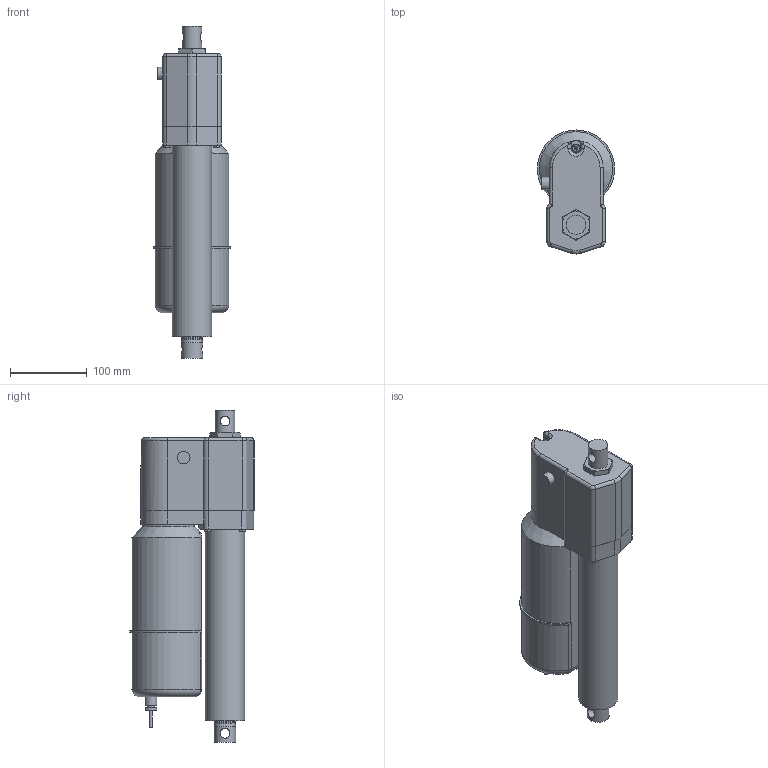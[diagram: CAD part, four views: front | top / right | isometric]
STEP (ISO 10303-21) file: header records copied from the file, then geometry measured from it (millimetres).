
FILE_DESCRIPTION (( 'STEP AP214' ), '1' );
FILE_NAME ('A42-05B5-06M0NPO-tollo.step', '2020-04-06T19:02:40', ( '' ), ( '' ), 'SwSTEP 2.0', 'SolidWorks 2010', '' );
FILE_SCHEMA (( 'AUTOMOTIVE_DESIGN' ));
Length unit declared in the file: millimetre
Products named in the file (7): Electrak-LA5-Motor-A42-05B5-06M0NPO-tollo_Electrak-LA5-Motor-A42-05B5-06M0NPO-tollo; Electrak-LA5-Rear-A42-05B5-06M0NPO-tollo_Electrak-LA5-Rear-A42-05B5-06M0NPO-tollo; Electrak-LA5-Tube-A42-05B5-06M0NPO-tollo_Electrak-LA5-Tube-A42-05B5-06M0NPO-tollo; Electrak-LA5-Rod-A42-05B5-06M0NPO-tollo_Electrak-LA5-Rod-A42-05B5-06M0NPO-tollo; Screw-MFX-H-M5-A42-05B5-06M0NPO-tollo_Screw-MFX-H-M5-A42-05B5-06M0NPO-tollo; Screw-M6S-M5-A42-05B5-06M0NPO-tollo_Screw-M6S-M5-A42-05B5-06M0NPO-tollo; A42-05B5-06M0NPO-tollo
Assembly tree (9 placements, depth 2):
  A42-05B5-06M0NPO-tollo
    Screw-M6S-M5-A42-05B5-06M0NPO-tollo_Screw-M6S-M5-A42-05B5-06M0NPO-tollo  x4
    Screw-MFX-H-M5-A42-05B5-06M0NPO-tollo_Screw-MFX-H-M5-A42-05B5-06M0NPO-tollo
    Electrak-LA5-Rear-A42-05B5-06M0NPO-tollo_Electrak-LA5-Rear-A42-05B5-06M0NPO-tollo
    Electrak-LA5-Motor-A42-05B5-06M0NPO-tollo_Electrak-LA5-Motor-A42-05B5-06M0NPO-tollo
    Electrak-LA5-Tube-A42-05B5-06M0NPO-tollo_Electrak-LA5-Tube-A42-05B5-06M0NPO-tollo
    Electrak-LA5-Rod-A42-05B5-06M0NPO-tollo_Electrak-LA5-Rod-A42-05B5-06M0NPO-tollo
Bounding box: 100.99 x 162.5 x 434 mm (x, y, z)
Volume: 3207803.4 mm3; surface area: 259561.2 mm2
Topology: 9 solids, 9 shells, 240 faces, 553 edges, 350 vertices
Faces by surface type: plane 96, cylinder 93, cone 31, torus 15, bspline 3, sphere 2
Full cylindrical faces by diameter (mm): 4 x1, 4.126 x5, 4.8 x2, 5 x13, 7.878 x4, 9.3 x1, 10 x1, 12.8 x2, 15 x2, 16.5 x1, 25.4 x1, 28.6 x4, 51.3 x1, 68 x1
Entity records: 5816 total; most frequent: CARTESIAN_POINT 1727, DIRECTION 814, ORIENTED_EDGE 670, AXIS2_PLACEMENT_3D 343, EDGE_CURVE 335, EDGE_LOOP 249, VERTEX_POINT 238, FACE_OUTER_BOUND 201
